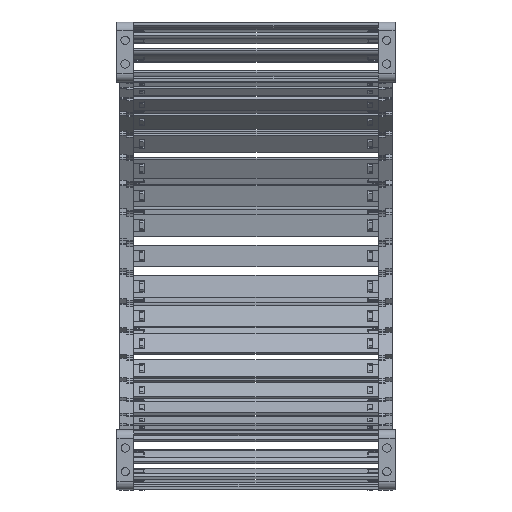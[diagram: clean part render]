
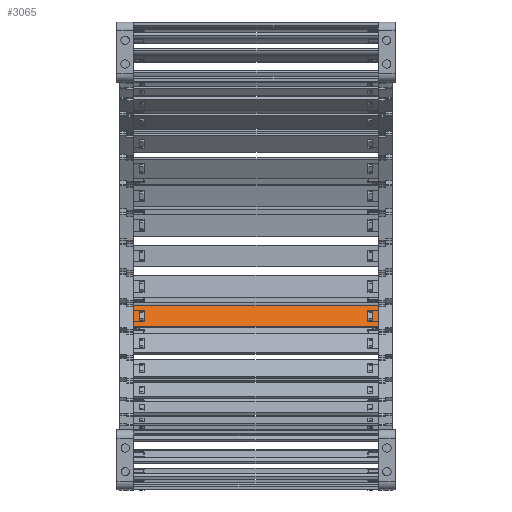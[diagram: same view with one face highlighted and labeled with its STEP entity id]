
A CAD part, left-side view. The second image highlights one B-rep face of the part: STEP entity #3065.
In plain terms, the highlighted planar face has unit normal (-0.94, 0, 0.342) as drawn and (0, 1, 0) by its records, which use the part's own axes.
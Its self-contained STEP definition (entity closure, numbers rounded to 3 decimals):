
#2485=DIRECTION('',(0.,0.,1.));
#2486=VECTOR('',#2485,15.8);
#2487=CARTESIAN_POINT('',(161.24,1.5,-7.9));
#2488=LINE('',#2487,#2486);
#2489=DIRECTION('',(-1.,0.,0.));
#2490=VECTOR('',#2489,176.);
#2491=CARTESIAN_POINT('',(161.24,1.5,7.9));
#2492=LINE('',#2491,#2490);
#2493=DIRECTION('',(0.,0.,-1.));
#2494=VECTOR('',#2493,15.8);
#2495=CARTESIAN_POINT('',(-14.76,1.5,7.9));
#2496=LINE('',#2495,#2494);
#2497=DIRECTION('',(1.,0.,0.));
#2498=VECTOR('',#2497,3.648);
#2499=CARTESIAN_POINT('',(153.622,1.5,4.075));
#2500=LINE('',#2499,#2498);
#2501=DIRECTION('',(0.,0.,-1.));
#2502=VECTOR('',#2501,8.15);
#2503=CARTESIAN_POINT('',(157.27,1.5,4.075));
#2504=LINE('',#2503,#2502);
#2505=DIRECTION('',(-1.,0.,0.));
#2506=VECTOR('',#2505,3.648);
#2507=CARTESIAN_POINT('',(157.27,1.5,-4.075));
#2508=LINE('',#2507,#2506);
#2509=DIRECTION('',(0.,0.,-1.));
#2510=VECTOR('',#2509,8.15);
#2511=CARTESIAN_POINT('',(-7.142,1.5,4.075));
#2512=LINE('',#2511,#2510);
#2513=DIRECTION('',(-1.,0.,0.));
#2514=VECTOR('',#2513,3.648);
#2515=CARTESIAN_POINT('',(-7.142,1.5,-4.075));
#2516=LINE('',#2515,#2514);
#2517=DIRECTION('',(0.,0.,1.));
#2518=VECTOR('',#2517,8.15);
#2519=CARTESIAN_POINT('',(-10.79,1.5,-4.075));
#2520=LINE('',#2519,#2518);
#2521=DIRECTION('',(1.,0.,0.));
#2522=VECTOR('',#2521,3.648);
#2523=CARTESIAN_POINT('',(-10.79,1.5,4.075));
#2524=LINE('',#2523,#2522);
#2529=DIRECTION('',(-1.,0.,0.));
#2530=VECTOR('',#2529,176.);
#2531=CARTESIAN_POINT('',(161.24,1.5,-7.9));
#2532=LINE('',#2531,#2530);
#2650=DIRECTION('',(0.,0.,-1.));
#2651=VECTOR('',#2650,8.15);
#2652=CARTESIAN_POINT('',(153.622,1.5,4.075));
#2653=LINE('',#2652,#2651);
#2835=CARTESIAN_POINT('',(157.27,1.5,4.075));
#2836=VERTEX_POINT('',#2835);
#2837=CARTESIAN_POINT('',(153.622,1.5,4.075));
#2838=VERTEX_POINT('',#2837);
#2879=CARTESIAN_POINT('',(153.622,1.5,-4.075));
#2880=VERTEX_POINT('',#2879);
#2881=CARTESIAN_POINT('',(157.27,1.5,-4.075));
#2882=VERTEX_POINT('',#2881);
#2883=CARTESIAN_POINT('',(161.24,1.5,7.9));
#2885=VERTEX_POINT('',#2883);
#2887=CARTESIAN_POINT('',(161.24,1.5,-7.9));
#2888=VERTEX_POINT('',#2887);
#2911=CARTESIAN_POINT('',(-7.142,1.5,4.075));
#2912=CARTESIAN_POINT('',(-7.142,1.5,-4.075));
#2913=VERTEX_POINT('',#2911);
#2914=VERTEX_POINT('',#2912);
#2915=CARTESIAN_POINT('',(-10.79,1.5,-4.075));
#2916=VERTEX_POINT('',#2915);
#2917=CARTESIAN_POINT('',(-10.79,1.5,4.075));
#2918=VERTEX_POINT('',#2917);
#2919=CARTESIAN_POINT('',(-14.76,1.5,7.9));
#2920=VERTEX_POINT('',#2919);
#2923=CARTESIAN_POINT('',(-14.76,1.5,-7.9));
#2924=VERTEX_POINT('',#2923);
#3034=CARTESIAN_POINT('',(192.98,1.5,10.061));
#3035=DIRECTION('',(0.,-1.,0.));
#3036=DIRECTION('',(0.,0.,-1.));
#3037=AXIS2_PLACEMENT_3D('',#3034,#3035,#3036);
#3038=PLANE('',#3037);
#3039=ORIENTED_EDGE('',*,*,#2973,.T.);
#3040=ORIENTED_EDGE('',*,*,#2999,.T.);
#3041=ORIENTED_EDGE('',*,*,#3012,.T.);
#3043=ORIENTED_EDGE('',*,*,#3042,.F.);
#3044=EDGE_LOOP('',(#3039,#3040,#3041,#3043));
#3045=FACE_OUTER_BOUND('',#3044,.F.);
#3047=ORIENTED_EDGE('',*,*,#3046,.F.);
#3048=ORIENTED_EDGE('',*,*,#2936,.T.);
#3050=ORIENTED_EDGE('',*,*,#3049,.T.);
#3052=ORIENTED_EDGE('',*,*,#3051,.T.);
#3053=EDGE_LOOP('',(#3047,#3048,#3050,#3052));
#3054=FACE_BOUND('',#3053,.F.);
#3056=ORIENTED_EDGE('',*,*,#3055,.T.);
#3058=ORIENTED_EDGE('',*,*,#3057,.T.);
#3060=ORIENTED_EDGE('',*,*,#3059,.T.);
#3062=ORIENTED_EDGE('',*,*,#3061,.T.);
#3063=EDGE_LOOP('',(#3056,#3058,#3060,#3062));
#3064=FACE_BOUND('',#3063,.F.);
#3065=ADVANCED_FACE('',(#3045,#3054,#3064),#3038,.F.);
#2936=EDGE_CURVE('',#2838,#2836,#2500,.T.);
#2973=EDGE_CURVE('',#2888,#2885,#2488,.T.);
#2999=EDGE_CURVE('',#2885,#2920,#2492,.T.);
#3012=EDGE_CURVE('',#2920,#2924,#2496,.T.);
#3042=EDGE_CURVE('',#2888,#2924,#2532,.T.);
#3046=EDGE_CURVE('',#2838,#2880,#2653,.T.);
#3049=EDGE_CURVE('',#2836,#2882,#2504,.T.);
#3051=EDGE_CURVE('',#2882,#2880,#2508,.T.);
#3055=EDGE_CURVE('',#2913,#2914,#2512,.T.);
#3057=EDGE_CURVE('',#2914,#2916,#2516,.T.);
#3059=EDGE_CURVE('',#2916,#2918,#2520,.T.);
#3061=EDGE_CURVE('',#2918,#2913,#2524,.T.);
